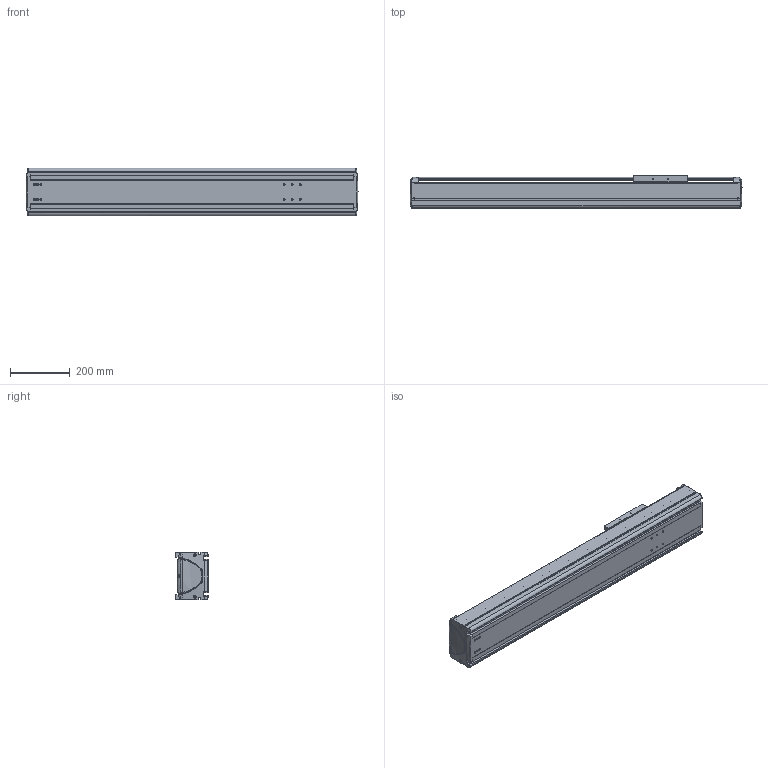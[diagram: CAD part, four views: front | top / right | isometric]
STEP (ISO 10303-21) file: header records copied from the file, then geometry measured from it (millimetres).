
FILE_DESCRIPTION((''),'2;1');
FILE_NAME('BE50G-ST-M_B-70_IGS_PRT','2017-06-18T',(' '),(''),'PRO/ENGINEER BY PARAMETRIC TECHNOLOGY CORPORATION, 2015030','PRO/ENGINEER BY PARAMETRIC TECHNOLOGY CORPORATION, 2015030','');
FILE_SCHEMA(('CONFIG_CONTROL_DESIGN'));
Length unit declared in the file: millimetre
Products named in the file (1): BE50G-ST-M_B-70_IGS_PRT
Bounding box: 1114.98 x 110 x 160 mm (x, y, z)
Volume: 5074787.8 mm3; surface area: 1717209 mm2
Topology: 2 solids, 77 shells, 1574 faces, 4155 edges, 2658 vertices
Faces by surface type: cylinder 668, plane 615, bspline 102, torus 87, cone 62, sphere 40
Entity records: 54052 total; most frequent: CARTESIAN_POINT 15553, ORIENTED_EDGE 7944, DIRECTION 7880, EDGE_CURVE 4122, AXIS2_PLACEMENT_3D 2924, VERTEX_POINT 2647, VECTOR 2032, LINE 2032
